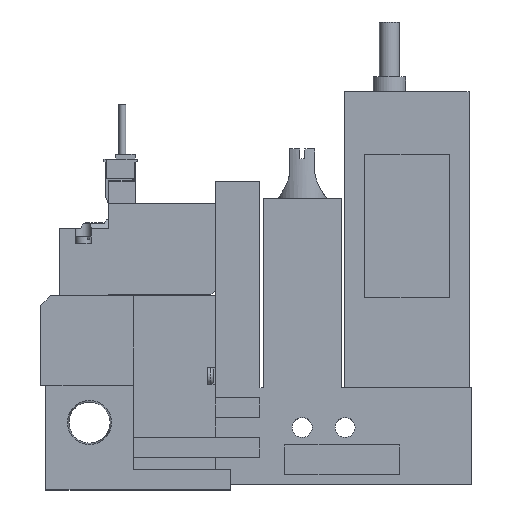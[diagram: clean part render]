
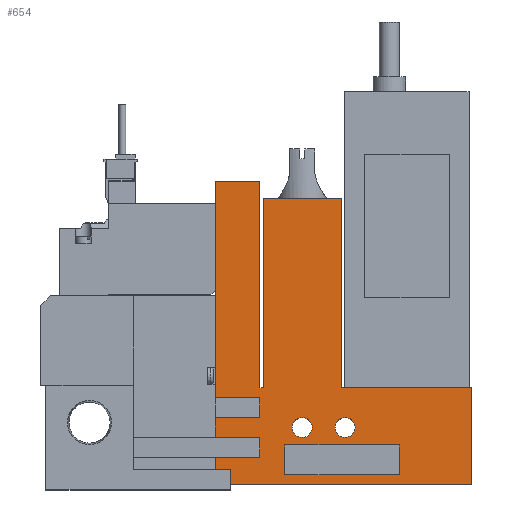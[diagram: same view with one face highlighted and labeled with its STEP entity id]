
A CAD part, top view. The second image highlights one B-rep face of the part: STEP entity #654.
In plain terms, the highlighted planar face has unit normal (0, 0, 1).
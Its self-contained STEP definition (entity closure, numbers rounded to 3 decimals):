
#654=ADVANCED_FACE('',(#1421,#1422,#1423,#1424),#1425,.T.);
#1421=FACE_OUTER_BOUND('',#2278,.T.);
#1422=FACE_BOUND('',#2279,.T.);
#1423=FACE_BOUND('',#2280,.T.);
#1424=FACE_BOUND('',#2281,.T.);
#1425=PLANE('',#2282);
#2278=EDGE_LOOP('',(#5018,#5019,#5020,#5021,#5022,#5023,#5024,#5025,#5026,#5027,#5028,#5029,#5030,#5031,#5032,#5033,#5034,#5035));
#2279=EDGE_LOOP('',(#5036,#5037,#5038,#5039));
#2280=EDGE_LOOP('',(#5040));
#2281=EDGE_LOOP('',(#5041));
#2282=AXIS2_PLACEMENT_3D('',#5042,#5043,#5044);
#5018=ORIENTED_EDGE('',*,*,#6292,.T.);
#5019=ORIENTED_EDGE('',*,*,#6269,.T.);
#5020=ORIENTED_EDGE('',*,*,#6264,.T.);
#5021=ORIENTED_EDGE('',*,*,#6266,.T.);
#5022=ORIENTED_EDGE('',*,*,#6234,.T.);
#5023=ORIENTED_EDGE('',*,*,#6326,.T.);
#5024=ORIENTED_EDGE('',*,*,#6257,.T.);
#5025=ORIENTED_EDGE('',*,*,#6324,.T.);
#5026=ORIENTED_EDGE('',*,*,#6243,.T.);
#5027=ORIENTED_EDGE('',*,*,#6330,.T.);
#5028=ORIENTED_EDGE('',*,*,#6316,.T.);
#5029=ORIENTED_EDGE('',*,*,#6313,.T.);
#5030=ORIENTED_EDGE('',*,*,#6310,.T.);
#5031=ORIENTED_EDGE('',*,*,#6307,.T.);
#5032=ORIENTED_EDGE('',*,*,#6304,.T.);
#5033=ORIENTED_EDGE('',*,*,#6301,.T.);
#5034=ORIENTED_EDGE('',*,*,#6298,.T.);
#5035=ORIENTED_EDGE('',*,*,#6295,.T.);
#5036=ORIENTED_EDGE('',*,*,#6280,.T.);
#5037=ORIENTED_EDGE('',*,*,#6281,.T.);
#5038=ORIENTED_EDGE('',*,*,#6276,.T.);
#5039=ORIENTED_EDGE('',*,*,#6278,.T.);
#5040=ORIENTED_EDGE('',*,*,#6250,.T.);
#5041=ORIENTED_EDGE('',*,*,#6248,.T.);
#5042=CARTESIAN_POINT('',(0.0,0.0,10.0));
#5043=DIRECTION('',(0.0,0.0,1.0));
#5044=DIRECTION('',(1.0,0.0,0.0));
#6234=EDGE_CURVE('',#7717,#7715,#7718,.T.);
#6243=EDGE_CURVE('',#7729,#7733,#7735,.T.);
#6248=EDGE_CURVE('',#7743,#7743,#7744,.T.);
#6250=EDGE_CURVE('',#7747,#7747,#7748,.T.);
#6257=EDGE_CURVE('',#7757,#7759,#7761,.T.);
#6264=EDGE_CURVE('',#7770,#7772,#7774,.T.);
#6266=EDGE_CURVE('',#7772,#7717,#7776,.T.);
#6269=EDGE_CURVE('',#7777,#7770,#7781,.T.);
#6276=EDGE_CURVE('',#7790,#7792,#7794,.T.);
#6278=EDGE_CURVE('',#7792,#7795,#7797,.T.);
#6280=EDGE_CURVE('',#7795,#7798,#7800,.T.);
#6281=EDGE_CURVE('',#7798,#7790,#7801,.T.);
#6292=EDGE_CURVE('',#7819,#7777,#7820,.T.);
#6295=EDGE_CURVE('',#7824,#7819,#7825,.T.);
#6298=EDGE_CURVE('',#7829,#7824,#7830,.T.);
#6301=EDGE_CURVE('',#7834,#7829,#7835,.T.);
#6304=EDGE_CURVE('',#7839,#7834,#7840,.T.);
#6307=EDGE_CURVE('',#7844,#7839,#7845,.T.);
#6310=EDGE_CURVE('',#7849,#7844,#7850,.T.);
#6313=EDGE_CURVE('',#7854,#7849,#7855,.T.);
#6316=EDGE_CURVE('',#7859,#7854,#7860,.T.);
#6324=EDGE_CURVE('',#7759,#7729,#7870,.T.);
#6326=EDGE_CURVE('',#7715,#7757,#7872,.T.);
#6330=EDGE_CURVE('',#7733,#7859,#7877,.T.);
#7715=VERTEX_POINT('',#10064);
#7717=VERTEX_POINT('',#10067);
#7718=LINE('',#10068,#10069);
#7729=VERTEX_POINT('',#10085);
#7733=VERTEX_POINT('',#10091);
#7735=LINE('',#10094,#10095);
#7743=VERTEX_POINT('',#10106);
#7744=CIRCLE('',#10107,2.0);
#7747=VERTEX_POINT('',#10110);
#7748=CIRCLE('',#10111,2.0);
#7757=VERTEX_POINT('',#10124);
#7759=VERTEX_POINT('',#10127);
#7761=LINE('',#10130,#10131);
#7770=VERTEX_POINT('',#10144);
#7772=VERTEX_POINT('',#10147);
#7774=LINE('',#10150,#10151);
#7776=LINE('',#10154,#10155);
#7777=VERTEX_POINT('',#10156);
#7781=LINE('',#10162,#10163);
#7790=VERTEX_POINT('',#10176);
#7792=VERTEX_POINT('',#10179);
#7794=LINE('',#10182,#10183);
#7795=VERTEX_POINT('',#10184);
#7797=LINE('',#10187,#10188);
#7798=VERTEX_POINT('',#10189);
#7800=LINE('',#10192,#10193);
#7801=LINE('',#10194,#10195);
#7819=VERTEX_POINT('',#10223);
#7820=LINE('',#10224,#10225);
#7824=VERTEX_POINT('',#10231);
#7825=LINE('',#10232,#10233);
#7829=VERTEX_POINT('',#10239);
#7830=LINE('',#10240,#10241);
#7834=VERTEX_POINT('',#10247);
#7835=LINE('',#10248,#10249);
#7839=VERTEX_POINT('',#10255);
#7840=LINE('',#10256,#10257);
#7844=VERTEX_POINT('',#10263);
#7845=LINE('',#10264,#10265);
#7849=VERTEX_POINT('',#10271);
#7850=LINE('',#10272,#10273);
#7854=VERTEX_POINT('',#10279);
#7855=LINE('',#10280,#10281);
#7859=VERTEX_POINT('',#10287);
#7860=LINE('',#10288,#10289);
#7870=LINE('',#10306,#10307);
#7872=LINE('',#10310,#10311);
#7877=LINE('',#10319,#10320);
#10064=CARTESIAN_POINT('',(35.1,9.5,10.0));
#10067=CARTESIAN_POINT('',(35.1,13.5,10.0));
#10068=CARTESIAN_POINT('',(35.1,0.0,10.0));
#10069=VECTOR('',#11555,1.0);
#10085=CARTESIAN_POINT('',(35.1,5.5,10.0));
#10091=CARTESIAN_POINT('',(35.1,0.0,10.0));
#10094=CARTESIAN_POINT('',(35.1,0.0,10.0));
#10095=VECTOR('',#11564,1.0);
#10106=CARTESIAN_POINT('',(63.2,11.5,10.0));
#10107=AXIS2_PLACEMENT_3D('',#11571,#11572,#11573);
#10110=CARTESIAN_POINT('',(54.6,11.5,10.0));
#10111=AXIS2_PLACEMENT_3D('',#11577,#11578,#11579);
#10124=CARTESIAN_POINT('',(44.1,9.5,10.0));
#10127=CARTESIAN_POINT('',(44.1,5.5,10.0));
#10130=CARTESIAN_POINT('',(44.1,0.0,10.0));
#10131=VECTOR('',#11586,1.0);
#10144=CARTESIAN_POINT('',(44.1,17.5,10.0));
#10147=CARTESIAN_POINT('',(44.1,13.5,10.0));
#10150=CARTESIAN_POINT('',(44.1,0.0,10.0));
#10151=VECTOR('',#11593,1.0);
#10154=CARTESIAN_POINT('',(0.0,13.5,10.0));
#10155=VECTOR('',#11595,1.0);
#10156=CARTESIAN_POINT('',(35.1,17.5,10.0));
#10162=CARTESIAN_POINT('',(0.0,17.5,10.0));
#10163=VECTOR('',#11598,1.0);
#10176=CARTESIAN_POINT('',(72.1,8.0,10.0));
#10179=CARTESIAN_POINT('',(72.1,2.0,10.0));
#10182=CARTESIAN_POINT('',(72.1,0.0,10.0));
#10183=VECTOR('',#11605,1.0);
#10184=CARTESIAN_POINT('',(49.1,2.0,10.0));
#10187=CARTESIAN_POINT('',(0.0,2.0,10.0));
#10188=VECTOR('',#11607,1.0);
#10189=CARTESIAN_POINT('',(49.1,8.0,10.0));
#10192=CARTESIAN_POINT('',(49.1,0.0,10.0));
#10193=VECTOR('',#11609,1.0);
#10194=CARTESIAN_POINT('',(0.0,8.0,10.0));
#10195=VECTOR('',#11610,1.0);
#10223=CARTESIAN_POINT('',(35.1,61.0,10.0));
#10224=CARTESIAN_POINT('',(35.1,61.0,10.0));
#10225=VECTOR('',#11621,1.0);
#10231=CARTESIAN_POINT('',(44.1,61.0,10.0));
#10232=CARTESIAN_POINT('',(44.1,61.0,10.0));
#10233=VECTOR('',#11624,1.0);
#10239=CARTESIAN_POINT('',(44.1,19.5,10.0));
#10240=CARTESIAN_POINT('',(44.1,19.5,10.0));
#10241=VECTOR('',#11627,1.0);
#10247=CARTESIAN_POINT('',(44.75,19.5,10.0));
#10248=CARTESIAN_POINT('',(44.75,19.5,10.0));
#10249=VECTOR('',#11630,1.0);
#10255=CARTESIAN_POINT('',(44.75,57.5,10.0));
#10256=CARTESIAN_POINT('',(44.75,57.5,10.0));
#10257=VECTOR('',#11633,1.0);
#10263=CARTESIAN_POINT('',(60.45,57.5,10.0));
#10264=CARTESIAN_POINT('',(60.45,57.5,10.0));
#10265=VECTOR('',#11636,1.0);
#10271=CARTESIAN_POINT('',(60.45,19.5,10.0));
#10272=CARTESIAN_POINT('',(60.45,19.5,10.0));
#10273=VECTOR('',#11639,1.0);
#10279=CARTESIAN_POINT('',(86.6,19.5,10.0));
#10280=CARTESIAN_POINT('',(86.6,19.5,10.0));
#10281=VECTOR('',#11642,1.0);
#10287=CARTESIAN_POINT('',(86.6,0.0,10.0));
#10288=CARTESIAN_POINT('',(86.6,0.0,10.0));
#10289=VECTOR('',#11645,1.0);
#10306=CARTESIAN_POINT('',(0.0,5.5,10.0));
#10307=VECTOR('',#11653,1.0);
#10310=CARTESIAN_POINT('',(0.0,9.5,10.0));
#10311=VECTOR('',#11655,1.0);
#10319=CARTESIAN_POINT('',(18.6,0.0,10.0));
#10320=VECTOR('',#11659,1.0);
#11555=DIRECTION('',(0.0,-1.0,0.0));
#11564=DIRECTION('',(0.0,-1.0,0.0));
#11571=CARTESIAN_POINT('',(61.2,11.5,10.0));
#11572=DIRECTION('',(0.0,0.0,-1.0));
#11573=DIRECTION('',(1.0,0.0,0.0));
#11577=CARTESIAN_POINT('',(52.6,11.5,10.0));
#11578=DIRECTION('',(0.0,0.0,-1.0));
#11579=DIRECTION('',(1.0,0.0,0.0));
#11586=DIRECTION('',(0.0,-1.0,0.0));
#11593=DIRECTION('',(0.0,-1.0,0.0));
#11595=DIRECTION('',(-1.0,0.0,0.0));
#11598=DIRECTION('',(1.0,0.0,0.0));
#11605=DIRECTION('',(0.0,-1.0,0.0));
#11607=DIRECTION('',(-1.0,0.0,0.0));
#11609=DIRECTION('',(0.0,1.0,0.0));
#11610=DIRECTION('',(1.0,0.0,0.0));
#11621=DIRECTION('',(0.0,-1.0,0.0));
#11624=DIRECTION('',(-1.0,0.0,0.0));
#11627=DIRECTION('',(0.0,1.0,0.0));
#11630=DIRECTION('',(-1.0,0.0,0.0));
#11633=DIRECTION('',(0.0,-1.0,0.0));
#11636=DIRECTION('',(-1.0,0.0,0.0));
#11639=DIRECTION('',(0.0,1.0,0.0));
#11642=DIRECTION('',(-1.0,0.0,0.0));
#11645=DIRECTION('',(0.0,1.0,0.0));
#11653=DIRECTION('',(-1.0,0.0,0.0));
#11655=DIRECTION('',(1.0,0.0,0.0));
#11659=DIRECTION('',(1.0,0.0,0.0));
